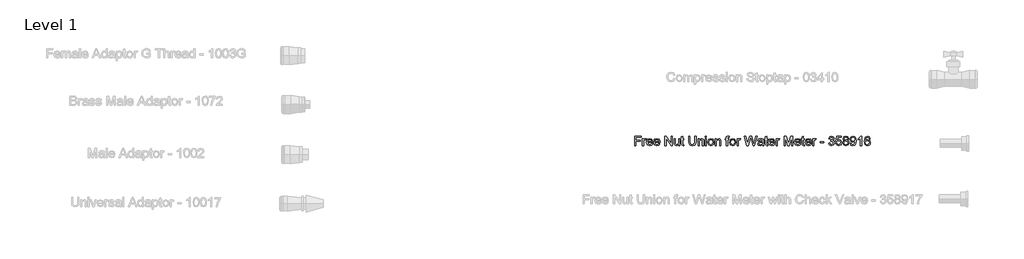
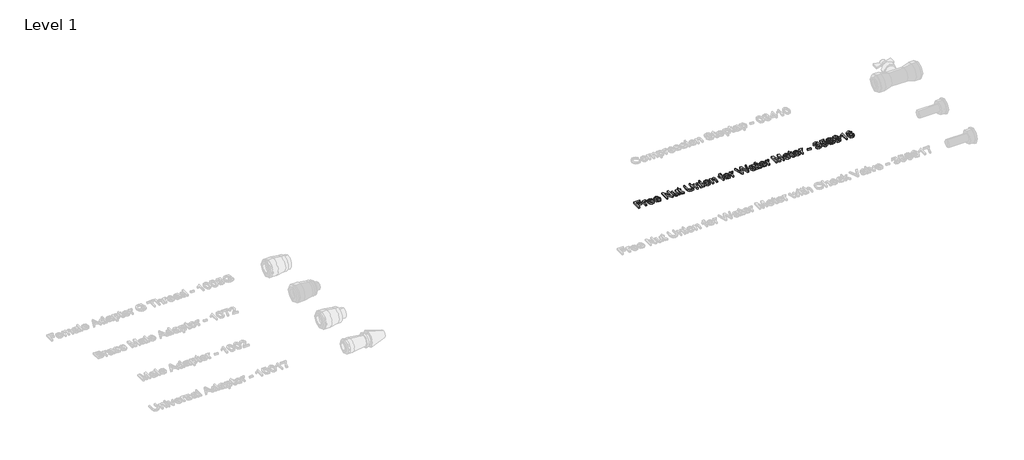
# One storey, part 12 of 13: 1 proxy.
"""IFC4 building model written with IfcOpenShell, lengths in millimetres."""

import ifcopenshell
import ifcopenshell.guid

model = None  # the IFC model being written
_history = None  # IfcOwnerHistory: only IFC2X3 demands one
_inside = {}  # id of a spatial element -> (the spatial element, [elements in it])
_under = {}  # id of a project, library or spatial element -> (it, [spatial elements below it])
_declared = {}  # id of a project -> (the project, [libraries it declares])
_typed = {}  # id of a type object -> (the type object, [elements of that type])
_made_of = {}  # id of a material, layer set ... -> (it, [elements and type objects made of it])


def new_model(schema):
    """Start an empty IFC model of exactly this schema.

    Asked for "IFC4X3", IfcOpenShell would pick the latest addendum, in which some entities
    have other attributes; the version numbers below select the first issue.
    IFC2X3 requires an IfcOwnerHistory on every rooted entity: one is made here for all.
    """
    global model, _history
    if schema == "IFC4X3":
        model = ifcopenshell.file(schema_version=(4, 3, 0, 0))
    else:
        model = ifcopenshell.file(schema=schema)
    _inside.clear()
    _under.clear()
    _declared.clear()
    _typed.clear()
    _made_of.clear()
    _history = None
    if model.schema == "IFC2X3":
        org = make("IfcOrganization", Name="unknown")
        user = make(
            "IfcPersonAndOrganization",
            ThePerson=make("IfcPerson", FamilyName="unknown"),
            TheOrganization=org,
        )
        app = make(
            "IfcApplication",
            ApplicationDeveloper=org,
            Version="unknown",
            ApplicationFullName="unknown",
            ApplicationIdentifier="unknown",
        )
        _history = make(
            "IfcOwnerHistory",
            OwningUser=user,
            OwningApplication=app,
            ChangeAction="ADDED",
            CreationDate=0,
        )
    return model


def make(cls, **values):
    """One entity of the class cls with the attributes given. An attribute that is None is left unset."""
    return model.create_entity(
        cls, **{name: value for name, value in values.items() if value is not None}
    )


def rooted(cls, **values):
    """An entity with a GlobalId (a new one), such as an element, a storey or a relation."""
    return make(cls, GlobalId=ifcopenshell.guid.new(), OwnerHistory=_history, **values)


def si_unit(unit_type, name, prefix=None):
    """IfcSIUnit, for example si_unit("LENGTHUNIT", "METRE", prefix="MILLI")."""
    return make("IfcSIUnit", UnitType=unit_type, Prefix=prefix, Name=name)


def assignment(units):
    """IfcUnitAssignment: the units of a project."""
    return None if units is None else make("IfcUnitAssignment", Units=units)


def point(xyz):
    """IfcCartesianPoint."""
    return None if xyz is None else make("IfcCartesianPoint", Coordinates=xyz)


def direction(xyz):
    """IfcDirection."""
    return None if xyz is None else make("IfcDirection", DirectionRatios=xyz)


def frame(location, z_axis=None, x_axis=None):
    """IfcAxis2Placement3D, a coordinate frame: its origin and axes. An axis left out is left unset."""
    return make(
        "IfcAxis2Placement3D",
        Location=point(location),
        Axis=direction(z_axis),
        RefDirection=direction(x_axis),
    )


def origin():
    """The frame at (0, 0, 0) with its axes left unset."""
    return frame((0.0, 0.0, 0.0))


def origin_with_axes():
    """The frame at (0, 0, 0) with the z axis (0, 0, 1) and the x axis (1, 0, 0) written out."""
    return frame((0.0, 0.0, 0.0), z_axis=(0.0, 0.0, 1.0), x_axis=(1.0, 0.0, 0.0))


def place(relative_to, where):
    """IfcLocalPlacement: puts the frame where relative to a parent placement (None: the world)."""
    return make(
        "IfcLocalPlacement", PlacementRelTo=relative_to, RelativePlacement=where
    )


def context(
    kind, dimensions, precision=None, world=None, true_north=None, identifier=None
):
    """IfcGeometricRepresentationContext, for example the 3D "Model" context."""
    return make(
        "IfcGeometricRepresentationContext",
        ContextIdentifier=identifier,
        ContextType=kind,
        CoordinateSpaceDimension=dimensions,
        Precision=precision,
        WorldCoordinateSystem=world,
        TrueNorth=true_north,
    )


def project(units=None, contexts=None):
    """IfcProject with its units and contexts."""
    return rooted(
        "IfcProject",
        Name="project",
        RepresentationContexts=contexts,
        UnitsInContext=assignment(units),
    )


def spatial(cls, under=None, at=None, **own):
    """A site, building, storey or space (cls), placed at a placement, below another one or the project."""
    s = rooted(cls, ObjectPlacement=at, **own)
    if under is not None:
        _under.setdefault(under.id(), (under, []))[1].append(s)
    return s


def polyline(points):
    """IfcPolyline through the points."""
    return make("IfcPolyline", Points=[point(p) for p in points])


def outline(outer, holes=None, kind="AREA"):
    """IfcArbitraryClosedProfileDef: a profile drawn as a closed curve; with holes, ...WithVoids."""
    if holes is None:
        return make("IfcArbitraryClosedProfileDef", ProfileType=kind, OuterCurve=outer)
    return make(
        "IfcArbitraryProfileDefWithVoids",
        ProfileType=kind,
        OuterCurve=outer,
        InnerCurves=holes,
    )


def extrude(swept, where, along, depth):
    """IfcExtrudedAreaSolid: the profile swept, set in the frame where, extruded along a direction by depth."""
    return make(
        "IfcExtrudedAreaSolid",
        SweptArea=swept,
        Position=where,
        ExtrudedDirection=direction(along),
        Depth=depth,
    )


def shape(context_of_items, identifier, shape_type, items):
    """IfcShapeRepresentation: the items that make up one representation, for example the "Body"."""
    return make(
        "IfcShapeRepresentation",
        ContextOfItems=context_of_items,
        RepresentationIdentifier=identifier,
        RepresentationType=shape_type,
        Items=items,
    )


def made_of(thing, what):
    """Note that an element or type object is made of a material, layer set ...; save() writes the relation."""
    if what is not None:
        _made_of.setdefault(what.id(), (what, []))[1].append(thing)
    return thing


def element(
    cls,
    number,
    at=None,
    inside=None,
    cuts=None,
    type_object=None,
    material=None,
    context=None,
    identifier="Body",
    shape_type=None,
    held_by="IfcProductDefinitionShape",
    body=None,
    shapes=None,
    **own,
):
    """One element of the class cls, such as IfcWall. Its Tag is "e" and its number.

    at: its placement. inside: the storey or other place that contains it. cuts: it is an
    opening in that element (IfcRelVoidsElement). A single representation is given by context,
    identifier, shape_type and body (its items); several are given by shapes. held_by: the class
    of the entity that holds the representations. save() writes the other relations.
    """
    e = rooted(cls, Tag="e%d" % number, ObjectPlacement=at, **own)
    if body is not None:
        shapes = [shape(context, identifier, shape_type, body)]
    if shapes is not None:
        e.Representation = make(held_by, Representations=shapes)
    if inside is not None:
        _inside.setdefault(inside.id(), (inside, []))[1].append(e)
    if cuts is not None:
        rooted(
            "IfcRelVoidsElement", RelatingBuildingElement=cuts, RelatedOpeningElement=e
        )
    if type_object is not None:
        _typed.setdefault(type_object.id(), (type_object, []))[1].append(e)
    return made_of(e, material)


def aggregate(whole, parts):
    """IfcRelAggregates: a whole, such as a stair, and the parts it consists of."""
    return rooted("IfcRelAggregates", RelatingObject=whole, RelatedObjects=parts)


def save(model, path):
    """Write the relations noted so far, then the file.

    IfcRelAggregates (storeys below a building ...), IfcRelContainedInSpatialStructure (elements
    in a storey), IfcRelDefinesByType, IfcRelAssociatesMaterial and IfcRelDeclares: one each for
    every whole, place, type object, material and project.
    """
    for whole, parts in _under.values():
        aggregate(whole, parts)
    for where, things in _inside.values():
        rooted(
            "IfcRelContainedInSpatialStructure",
            RelatedElements=things,
            RelatingStructure=where,
        )
    for kind, things in _typed.values():
        rooted("IfcRelDefinesByType", RelatedObjects=things, RelatingType=kind)
    for what, things in _made_of.values():
        rooted("IfcRelAssociatesMaterial", RelatedObjects=things, RelatingMaterial=what)
    for by, libraries in _declared.values():
        rooted("IfcRelDeclares", RelatingContext=by, RelatedDefinitions=libraries)
    model.write(path)


model = new_model("IFC4")

# Units and contexts
model_context = context("Model", 3, world=origin())
ifc_project = project(units=[si_unit("LENGTHUNIT", "METRE", prefix="MILLI")], contexts=[model_context])

# Site, building, storey
site = spatial("IfcSite", under=ifc_project)
building = spatial("IfcBuilding", under=site)
storey = spatial("IfcBuildingStorey", under=building, Name="Level 1", Elevation=0.0)

# Proxy
placement = place(None, origin())
element("IfcBuildingElementProxy", 1, Name="30 mm Arial", ObjectType="30 mm Arial", at=placement, inside=storey, context=model_context, shape_type="SweptSolid", body=[
    extrude(outline(polyline([(18497.361256, 4638.7804464), (18497.361256, 4668.318908), (18517.2074099, 4668.318908), (18517.2074099, 4664.6266003), (18501.0535637, 4664.6266003), (18501.0535637, 4655.8573695), (18514.8997176, 4655.8573695), (18514.8997176, 4652.1650618), (18501.0535637, 4652.1650618), (18501.0535637, 4638.7804464), (18497.361256, 4638.7804464)])), origin_with_axes(), (0.0, 0.0, 1.0), 5.0),
    extrude(outline(polyline([(18521.8227945, 4638.7804464), (18521.8227945, 4660.4727541), (18525.0535637, 4660.4727541), (18525.0535637, 4657.2636195), (18527.346833, 4660.2203503), (18529.6545253, 4660.9342926), (18533.361256, 4659.7948695), (18532.128083, 4656.4847734), (18529.5319291, 4657.2419849), (18527.4441887, 4656.5136195), (18526.1136599, 4654.4943888), (18525.5151022, 4650.1818888), (18525.5151022, 4638.7804464), (18521.8227945, 4638.7804464)])), origin_with_axes(), (0.0, 0.0, 1.0), 5.0),
    extrude(outline(polyline([(18550.8564483, 4645.2419849), (18554.4766407, 4644.7804464), (18551.0908233, 4640.0136195), (18544.784333, 4638.318908), (18537.1184676, 4641.2431868), (18534.284333, 4649.4463118), (18537.1473137, 4657.9198695), (18544.5751983, 4660.9342926), (18551.7903426, 4657.9270811), (18554.5920253, 4649.4679464), (18537.9766407, 4648.4727541), (18540.1004387, 4643.6770811), (18544.8564483, 4642.0112157), (18548.4766407, 4642.7828503), (18550.8564483, 4645.2419849)]), holes=[polyline([(18537.9766407, 4652.1650618), (18550.8997176, 4652.1650618), (18549.4213522, 4655.5112157), (18544.5607753, 4657.2419849), (18540.0139003, 4655.8609753), (18537.9766407, 4652.1650618)])]), origin_with_axes(), (0.0, 0.0, 1.0), 5.0),
    extrude(outline(polyline([(18573.471833, 4645.2419849), (18577.0920253, 4644.7804464), (18573.706208, 4640.0136195), (18567.3997176, 4638.318908), (18559.7338522, 4641.2431868), (18556.8997176, 4649.4463118), (18559.7626983, 4657.9198695), (18567.190583, 4660.9342926), (18574.4057272, 4657.9270811), (18577.2074099, 4649.4679464), (18560.5920253, 4648.4727541), (18562.7158233, 4643.6770811), (18567.471833, 4642.0112157), (18571.0920253, 4642.7828503), (18573.471833, 4645.2419849)]), holes=[polyline([(18560.5920253, 4652.1650618), (18573.5151022, 4652.1650618), (18572.0367368, 4655.5112157), (18567.1761599, 4657.2419849), (18562.6292849, 4655.8609753), (18560.5920253, 4652.1650618)])]), origin_with_axes(), (0.0, 0.0, 1.0), 5.0),
    extrude(outline(polyline([(18592.8997176, 4638.7804464), (18592.8997176, 4668.318908), (18596.8516407, 4668.318908), (18612.284333, 4644.9174657), (18612.284333, 4668.318908), (18615.9766407, 4668.318908), (18615.9766407, 4638.7804464), (18612.0247176, 4638.7804464), (18596.5920253, 4662.1891003), (18596.5920253, 4638.7804464), (18592.8997176, 4638.7804464)])), origin_with_axes(), (0.0, 0.0, 1.0), 5.0),
    extrude(outline(polyline([(18635.8227945, 4638.7804464), (18635.8227945, 4642.5088118), (18629.159333, 4638.318908), (18625.6869772, 4639.0544849), (18623.2927464, 4640.9006388), (18622.1929868, 4643.6193888), (18621.9766407, 4647.0520811), (18621.9766407, 4660.4727541), (18625.6689483, 4660.4727541), (18625.6689483, 4648.7900618), (18625.892506, 4645.0256388), (18627.3528426, 4642.8153022), (18630.1040445, 4642.0112157), (18633.1869772, 4642.8333311), (18635.2242368, 4645.0725138), (18635.8227945, 4649.1866964), (18635.8227945, 4660.4727541), (18639.5151022, 4660.4727541), (18639.5151022, 4638.7804464), (18635.8227945, 4638.7804464)])), origin_with_axes(), (0.0, 0.0, 1.0), 5.0),
    extrude(outline(polyline([(18652.4381791, 4641.8597734), (18652.8997176, 4638.6722734), (18650.1376983, 4638.318908), (18647.0439483, 4638.9318888), (18645.5006791, 4640.5400618), (18645.0535637, 4644.7299657), (18645.0535637, 4656.7804464), (18642.284333, 4656.7804464), (18642.284333, 4660.4727541), (18645.0535637, 4660.4727541), (18645.0535637, 4665.7443888), (18648.7458714, 4667.9150618), (18648.7458714, 4660.4727541), (18652.4381791, 4660.4727541), (18652.4381791, 4656.7804464), (18648.7458714, 4656.7804464), (18648.7458714, 4644.8381388), (18648.940583, 4642.9342926), (18652.4381791, 4641.8597734)])), origin_with_axes(), (0.0, 0.0, 1.0), 5.0),
    extrude(outline(polyline([(18687.5151022, 4668.318908), (18691.2074099, 4668.318908), (18691.2074099, 4651.2780426), (18690.205006, 4644.2143407), (18686.5920253, 4639.959533), (18679.7410637, 4638.318908), (18672.9946695, 4639.7467926), (18669.251881, 4643.8826099), (18668.1304868, 4651.2780426), (18668.1304868, 4668.318908), (18671.8227945, 4668.318908), (18671.8227945, 4651.4078503), (18672.5511599, 4645.7792445), (18675.0535637, 4642.9919849), (18679.3949099, 4642.0112157), (18685.6473137, 4643.9511195), (18687.5151022, 4651.4078503), (18687.5151022, 4668.318908)])), origin_with_axes(), (0.0, 0.0, 1.0), 5.0),
    extrude(outline(polyline([(18697.2074099, 4638.7804464), (18697.2074099, 4660.4727541), (18700.8997176, 4660.4727541), (18700.8997176, 4657.443908), (18707.5776022, 4660.9342926), (18711.064381, 4660.2311676), (18713.4441887, 4658.3850138), (18714.5511599, 4655.6698695), (18714.7458714, 4652.100158), (18714.7458714, 4638.7804464), (18711.0535637, 4638.7804464), (18711.0535637, 4651.6025618), (18710.628083, 4654.8693888), (18709.1244772, 4656.5965522), (18706.5896214, 4657.2419849), (18702.5836118, 4655.7924657), (18700.8997176, 4650.2900618), (18700.8997176, 4638.7804464), (18697.2074099, 4638.7804464)])), origin_with_axes(), (0.0, 0.0, 1.0), 5.0),
    extrude(outline(polyline([(18719.8227945, 4664.6266003), (18719.8227945, 4668.318908), (18723.5151022, 4668.318908), (18723.5151022, 4664.6266003), (18719.8227945, 4664.6266003)])), origin_with_axes(), (0.0, 0.0, 1.0), 5.0),
    extrude(outline(polyline([(18719.8227945, 4638.7804464), (18719.8227945, 4660.4727541), (18723.5151022, 4660.4727541), (18723.5151022, 4638.7804464), (18719.8227945, 4638.7804464)])), origin_with_axes(), (0.0, 0.0, 1.0), 5.0),
    extrude(outline(polyline([(18728.1304868, 4649.6266003), (18731.3251983, 4658.5328503), (18737.830006, 4660.9342926), (18744.8071695, 4658.0100138), (18747.5151022, 4649.9294849), (18746.3179868, 4643.3597734), (18742.831208, 4639.6422253), (18737.830006, 4638.318908), (18730.8095733, 4641.2323695), (18728.1304868, 4649.6266003)]), holes=[polyline([(18731.8227945, 4649.6338118), (18733.5319291, 4643.9114561), (18737.830006, 4642.0112157), (18742.1136599, 4643.9222734), (18743.8227945, 4649.7491964), (18742.1028426, 4655.3417445), (18737.830006, 4657.2419849), (18733.5319291, 4655.3489561), (18731.8227945, 4649.6338118)])]), origin_with_axes(), (0.0, 0.0, 1.0), 5.0),
    extrude(outline(polyline([(18751.6689483, 4638.7804464), (18751.6689483, 4660.4727541), (18755.361256, 4660.4727541), (18755.361256, 4657.443908), (18762.0391407, 4660.9342926), (18765.5259195, 4660.2311676), (18767.9057272, 4658.3850138), (18769.0126983, 4655.6698695), (18769.2074099, 4652.100158), (18769.2074099, 4638.7804464), (18765.5151022, 4638.7804464), (18765.5151022, 4651.6025618), (18765.0896214, 4654.8693888), (18763.5860157, 4656.5965522), (18761.0511599, 4657.2419849), (18757.0451503, 4655.7924657), (18755.361256, 4650.2900618), (18755.361256, 4638.7804464), (18751.6689483, 4638.7804464)])), origin_with_axes(), (0.0, 0.0, 1.0), 5.0),
    extrude(outline(polyline([(18786.7458714, 4638.7804464), (18786.7458714, 4656.7804464), (18783.5151022, 4656.7804464), (18783.5151022, 4660.4727541), (18786.7458714, 4660.4727541), (18786.7458714, 4662.6578503), (18787.1352945, 4665.7371772), (18789.0247176, 4667.9366964), (18792.7458714, 4668.7804464), (18796.1136599, 4668.3766003), (18795.5727945, 4664.9150618), (18793.4453907, 4665.0881388), (18791.1196695, 4664.475158), (18790.4381791, 4662.1891003), (18790.4381791, 4660.4727541), (18794.5920253, 4660.4727541), (18794.5920253, 4656.7804464), (18790.4381791, 4656.7804464), (18790.4381791, 4638.7804464), (18786.7458714, 4638.7804464)])), origin_with_axes(), (0.0, 0.0, 1.0), 5.0),
    extrude(outline(polyline([(18796.8997176, 4649.6266003), (18800.0944291, 4658.5328503), (18806.5992368, 4660.9342926), (18813.5764003, 4658.0100138), (18816.284333, 4649.9294849), (18815.0872176, 4643.3597734), (18811.6004387, 4639.6422253), (18806.5992368, 4638.318908), (18799.5788041, 4641.2323695), (18796.8997176, 4649.6266003)]), holes=[polyline([(18800.5920253, 4649.6338118), (18802.3011599, 4643.9114561), (18806.5992368, 4642.0112157), (18810.8828907, 4643.9222734), (18812.5920253, 4649.7491964), (18810.8720733, 4655.3417445), (18806.5992368, 4657.2419849), (18802.3011599, 4655.3489561), (18800.5920253, 4649.6338118)])]), origin_with_axes(), (0.0, 0.0, 1.0), 5.0),
    extrude(outline(polyline([(18820.4381791, 4638.7804464), (18820.4381791, 4660.4727541), (18823.6689483, 4660.4727541), (18823.6689483, 4657.2636195), (18825.9622176, 4660.2203503), (18828.2699099, 4660.9342926), (18831.9766407, 4659.7948695), (18830.7434676, 4656.4847734), (18828.1473137, 4657.2419849), (18826.0595733, 4656.5136195), (18824.7290445, 4654.4943888), (18824.1304868, 4650.1818888), (18824.1304868, 4638.7804464), (18820.4381791, 4638.7804464)])), origin_with_axes(), (0.0, 0.0, 1.0), 5.0),
    extrude(outline(polyline([(18851.5703907, 4638.7804464), (18843.5151022, 4668.318908), (18847.3227945, 4668.318908), (18851.9958714, 4648.9054464), (18853.4381791, 4642.912658), (18854.9814483, 4648.2131388), (18860.8372176, 4668.318908), (18866.3251983, 4668.318908), (18870.580006, 4653.7443888), (18873.7458714, 4642.912658), (18875.1449099, 4648.7323695), (18879.861256, 4668.318908), (18883.6689483, 4668.318908), (18875.6064483, 4638.7804464), (18871.6617368, 4638.7804464), (18864.580006, 4661.568908), (18863.5920253, 4664.7491964), (18862.4814483, 4660.9198695), (18856.0271214, 4638.7804464), (18851.5703907, 4638.7804464)])), origin_with_axes(), (0.0, 0.0, 1.0), 5.0),
    extrude(outline(polyline([(18900.7458714, 4641.5496772), (18897.1653426, 4639.0472734), (18893.2098137, 4638.318908), (18887.8480349, 4640.0713118), (18885.9766407, 4644.5496772), (18886.6833714, 4647.4703503), (18888.5403426, 4649.5905426), (18891.1256791, 4650.8020811), (18894.3203907, 4651.3573695), (18900.7242368, 4652.6266003), (18899.7290445, 4656.1746772), (18895.6473137, 4657.2419849), (18891.9117368, 4656.5316484), (18890.1304868, 4654.0112157), (18886.4381791, 4654.4727541), (18888.0355349, 4658.0785234), (18891.251881, 4660.1915041), (18896.1232753, 4660.9342926), (18900.5980349, 4660.2780426), (18903.1256791, 4658.6302061), (18904.2578907, 4656.1241964), (18904.4381791, 4652.8934272), (18904.4381791, 4648.2996772), (18904.6256791, 4641.8850138), (18905.361256, 4638.7804464), (18901.6689483, 4638.7804464), (18900.7458714, 4641.5496772)]), holes=[polyline([(18900.7350541, 4648.4114561), (18894.7891407, 4647.8020811), (18891.612458, 4647.2035234), (18890.173756, 4646.2299657), (18890.768708, 4642.8116964), (18893.9958714, 4642.0112157), (18897.7314483, 4642.8946291), (18900.1401022, 4645.0328503), (18900.7350541, 4648.4114561)])]), origin_with_axes(), (0.0, 0.0, 1.0), 5.0),
    extrude(outline(polyline([(18917.361256, 4641.8597734), (18917.8227945, 4638.6722734), (18915.0607753, 4638.318908), (18911.9670253, 4638.9318888), (18910.423756, 4640.5400618), (18909.9766407, 4644.7299657), (18909.9766407, 4656.7804464), (18907.2074099, 4656.7804464), (18907.2074099, 4660.4727541), (18909.9766407, 4660.4727541), (18909.9766407, 4665.7443888), (18913.6689483, 4667.9150618), (18913.6689483, 4660.4727541), (18917.361256, 4660.4727541), (18917.361256, 4656.7804464), (18913.6689483, 4656.7804464), (18913.6689483, 4644.8381388), (18913.8636599, 4642.9342926), (18917.361256, 4641.8597734)])), origin_with_axes(), (0.0, 0.0, 1.0), 5.0),
    extrude(outline(polyline([(18936.2410637, 4645.2419849), (18939.861256, 4644.7804464), (18936.4754387, 4640.0136195), (18930.1689483, 4638.318908), (18922.503083, 4641.2431868), (18919.6689483, 4649.4463118), (18922.5319291, 4657.9198695), (18929.9598137, 4660.9342926), (18937.174958, 4657.9270811), (18939.9766407, 4649.4679464), (18923.361256, 4648.4727541), (18925.4850541, 4643.6770811), (18930.2410637, 4642.0112157), (18933.861256, 4642.7828503), (18936.2410637, 4645.2419849)]), holes=[polyline([(18923.361256, 4652.1650618), (18936.284333, 4652.1650618), (18934.8059676, 4655.5112157), (18929.9453907, 4657.2419849), (18925.3985157, 4655.8609753), (18923.361256, 4652.1650618)])]), origin_with_axes(), (0.0, 0.0, 1.0), 5.0),
    extrude(outline(polyline([(18943.6689483, 4638.7804464), (18943.6689483, 4660.4727541), (18946.8997176, 4660.4727541), (18946.8997176, 4657.2636195), (18949.1929868, 4660.2203503), (18951.5006791, 4660.9342926), (18955.2074099, 4659.7948695), (18953.9742368, 4656.4847734), (18951.378083, 4657.2419849), (18949.2903426, 4656.5136195), (18947.9598137, 4654.4943888), (18947.361256, 4650.1818888), (18947.361256, 4638.7804464), (18943.6689483, 4638.7804464)])), origin_with_axes(), (0.0, 0.0, 1.0), 5.0),
    extrude(outline(polyline([(18969.5151022, 4638.7804464), (18969.5151022, 4668.318908), (18975.8684676, 4668.318908), (18981.9117368, 4647.4991964), (18983.1304868, 4643.1506388), (18984.4501983, 4647.8597734), (18990.392506, 4668.318908), (18996.7458714, 4668.318908), (18996.7458714, 4638.7804464), (18993.0535637, 4638.7804464), (18993.0535637, 4664.6266003), (18985.6328907, 4638.7804464), (18980.628083, 4638.7804464), (18973.2074099, 4664.6266003), (18973.2074099, 4638.7804464), (18969.5151022, 4638.7804464)])), origin_with_axes(), (0.0, 0.0, 1.0), 5.0),
    extrude(outline(polyline([(19017.9333714, 4645.2419849), (19021.5535637, 4644.7804464), (19018.1677464, 4640.0136195), (19011.861256, 4638.318908), (19004.1953907, 4641.2431868), (19001.361256, 4649.4463118), (19004.2242368, 4657.9198695), (19011.6521214, 4660.9342926), (19018.8672657, 4657.9270811), (19021.6689483, 4649.4679464), (19005.0535637, 4648.4727541), (19007.1773618, 4643.6770811), (19011.9333714, 4642.0112157), (19015.5535637, 4642.7828503), (19017.9333714, 4645.2419849)]), holes=[polyline([(19005.0535637, 4652.1650618), (19017.9766407, 4652.1650618), (19016.4982753, 4655.5112157), (19011.6376983, 4657.2419849), (19007.0908233, 4655.8609753), (19005.0535637, 4652.1650618)])]), origin_with_axes(), (0.0, 0.0, 1.0), 5.0),
    extrude(outline(polyline([(19033.2074099, 4641.8597734), (19033.6689483, 4638.6722734), (19030.9069291, 4638.318908), (19027.8131791, 4638.9318888), (19026.2699099, 4640.5400618), (19025.8227945, 4644.7299657), (19025.8227945, 4656.7804464), (19023.0535637, 4656.7804464), (19023.0535637, 4660.4727541), (19025.8227945, 4660.4727541), (19025.8227945, 4665.7443888), (19029.5151022, 4667.9150618), (19029.5151022, 4660.4727541), (19033.2074099, 4660.4727541), (19033.2074099, 4656.7804464), (19029.5151022, 4656.7804464), (19029.5151022, 4644.8381388), (19029.7098137, 4642.9342926), (19033.2074099, 4641.8597734)])), origin_with_axes(), (0.0, 0.0, 1.0), 5.0),
    extrude(outline(polyline([(19052.0872176, 4645.2419849), (19055.7074099, 4644.7804464), (19052.3215926, 4640.0136195), (19046.0151022, 4638.318908), (19038.3492368, 4641.2431868), (19035.5151022, 4649.4463118), (19038.378083, 4657.9198695), (19045.8059676, 4660.9342926), (19053.0211118, 4657.9270811), (19055.8227945, 4649.4679464), (19039.2074099, 4648.4727541), (19041.331208, 4643.6770811), (19046.0872176, 4642.0112157), (19049.7074099, 4642.7828503), (19052.0872176, 4645.2419849)]), holes=[polyline([(19039.2074099, 4652.1650618), (19052.1304868, 4652.1650618), (19050.6521214, 4655.5112157), (19045.7915445, 4657.2419849), (19041.2446695, 4655.8609753), (19039.2074099, 4652.1650618)])]), origin_with_axes(), (0.0, 0.0, 1.0), 5.0),
    extrude(outline(polyline([(19059.5151022, 4638.7804464), (19059.5151022, 4660.4727541), (19062.7458714, 4660.4727541), (19062.7458714, 4657.2636195), (19065.0391407, 4660.2203503), (19067.346833, 4660.9342926), (19071.0535637, 4659.7948695), (19069.8203907, 4656.4847734), (19067.2242368, 4657.2419849), (19065.1364964, 4656.5136195), (19063.8059676, 4654.4943888), (19063.2074099, 4650.1818888), (19063.2074099, 4638.7804464), (19059.5151022, 4638.7804464)])), origin_with_axes(), (0.0, 0.0, 1.0), 5.0),
    extrude(outline(polyline([(19083.0535637, 4647.5496772), (19083.0535637, 4651.2419849), (19094.5920253, 4651.2419849), (19094.5920253, 4647.5496772), (19083.0535637, 4647.5496772)])), origin_with_axes(), (0.0, 0.0, 1.0), 5.0),
    extrude(outline(polyline([(19109.361256, 4646.6266003), (19113.0535637, 4647.0881388), (19115.0908233, 4643.2011195), (19118.9021214, 4642.0112157), (19123.3876983, 4643.6482349), (19125.0535637, 4647.7011195), (19123.4021214, 4651.5196291), (19119.205006, 4653.0304464), (19116.6160637, 4652.6266003), (19117.0271214, 4656.318908), (19121.8083714, 4657.3357349), (19123.6689483, 4660.5953503), (19122.3203907, 4663.4835714), (19118.8444291, 4664.6266003), (19115.3251983, 4663.4727541), (19113.5151022, 4660.0112157), (19109.8227945, 4660.4727541), (19112.8444291, 4666.2636195), (19118.7146214, 4668.318908), (19123.1677464, 4667.3056868), (19126.283131, 4664.5364561), (19127.361256, 4660.8116964), (19126.3372176, 4657.4078503), (19123.3083714, 4654.9631388), (19127.3324099, 4652.4391003), (19128.7458714, 4647.6362157), (19125.9189483, 4641.0304464), (19118.7723137, 4638.318908), (19112.2963522, 4640.6338118), (19109.361256, 4646.6266003)])), origin_with_axes(), (0.0, 0.0, 1.0), 5.0),
    extrude(outline(polyline([(19131.9766407, 4646.6266003), (19135.6689483, 4647.0881388), (19137.5295253, 4643.2840522), (19141.3876983, 4642.0112157), (19146.017506, 4643.7816484), (19147.6689483, 4648.4799657), (19146.1220733, 4652.8645811), (19141.4453907, 4654.4727541), (19138.2038041, 4653.8309272), (19136.1304868, 4652.1650618), (19132.4381791, 4652.6266003), (19135.6689483, 4667.8573695), (19149.9766407, 4667.8573695), (19149.9766407, 4664.1650618), (19138.6545253, 4664.1650618), (19137.0751983, 4656.0304464), (19142.4766407, 4658.1650618), (19148.7903426, 4655.5184272), (19151.361256, 4648.7107349), (19149.0463522, 4641.8597734), (19141.3732753, 4638.318908), (19134.8576503, 4640.5941484), (19131.9766407, 4646.6266003)])), origin_with_axes(), (0.0, 0.0, 1.0), 5.0),
    extrude(outline(polyline([(19159.971833, 4655.0496772), (19156.6076503, 4657.3429464), (19155.5151022, 4660.912658), (19157.8949099, 4666.1842926), (19164.2338522, 4668.318908), (19170.6304868, 4666.1338118), (19173.0535637, 4660.8116964), (19171.9754387, 4657.3321291), (19168.705006, 4655.0496772), (19172.6316887, 4652.1542445), (19173.9766407, 4647.3766003), (19171.3083714, 4640.9294849), (19164.284333, 4638.318908), (19157.2602945, 4640.9403022), (19154.5920253, 4647.4775618), (19155.9910637, 4652.3669849), (19159.971833, 4655.0496772)]), holes=[polyline([(19159.2074099, 4660.8044849), (19160.5163041, 4657.9054464), (19164.3276022, 4656.7804464), (19168.0631791, 4657.8982349), (19169.361256, 4660.6386195), (19168.0199099, 4663.4763599), (19164.284333, 4664.6266003), (19160.5379387, 4663.5016003), (19159.2074099, 4660.8044849)]), polyline([(19158.284333, 4647.6073695), (19158.9009195, 4644.8273214), (19161.0824099, 4642.7467926), (19164.3131791, 4642.0112157), (19168.7122176, 4643.5580907), (19170.284333, 4647.4919849), (19168.6617368, 4651.5016003), (19164.190583, 4653.0881388), (19159.845631, 4651.5232349), (19158.284333, 4647.6073695)])]), origin_with_axes(), (0.0, 0.0, 1.0), 5.0),
    extrude(outline(polyline([(19177.6689483, 4646.1650618), (19181.361256, 4646.6266003), (19183.0199099, 4643.1037638), (19186.1641407, 4642.0112157), (19189.1533233, 4642.7143407), (19191.1797657, 4644.5929464), (19192.3876983, 4647.8020811), (19192.9213522, 4652.0857349), (19189.9465926, 4650.0088118), (19185.8973137, 4648.9342926), (19179.7278426, 4651.5592926), (19177.2074099, 4658.475158), (19179.8504387, 4665.6145811), (19186.4742368, 4668.318908), (19191.7350541, 4666.7756388), (19195.3552464, 4662.3766003), (19196.5920253, 4654.1121772), (19195.3588522, 4645.1446291), (19191.6917849, 4640.0641003), (19185.9910637, 4638.318908), (19180.315583, 4640.3778022), (19177.6689483, 4646.1650618)]), holes=[polyline([(19192.8997176, 4658.5616964), (19191.3059676, 4662.9895811), (19187.0727945, 4664.6266003), (19182.6304868, 4662.8633791), (19180.8997176, 4658.2948695), (19182.5367368, 4654.2023214), (19186.971833, 4652.6266003), (19191.2302464, 4654.2023214), (19192.8997176, 4658.5616964)])]), origin_with_axes(), (0.0, 0.0, 1.0), 5.0),
    extrude(outline(polyline([(19213.6689483, 4638.7804464), (19209.9766407, 4638.7804464), (19209.9766407, 4661.7996772), (19206.4790445, 4659.3080907), (19202.5920253, 4657.443908), (19202.5920253, 4660.9342926), (19208.0042849, 4664.3886195), (19211.2891407, 4668.318908), (19213.6689483, 4668.318908), (19213.6689483, 4638.7804464)])), origin_with_axes(), (0.0, 0.0, 1.0), 5.0),
    extrude(outline(polyline([(19241.361256, 4660.4727541), (19237.6689483, 4660.0112157), (19236.2699099, 4663.0905426), (19232.5703907, 4664.6266003), (19229.2386599, 4663.7323695), (19226.7182272, 4660.3753984), (19225.6689483, 4653.7948695), (19228.924958, 4656.740783), (19232.9598137, 4657.7035234), (19239.2338522, 4655.0713118), (19241.8227945, 4648.2708311), (19240.6040445, 4643.1758791), (19237.2506791, 4639.5701099), (19232.4117368, 4638.318908), (19224.8864964, 4641.6362157), (19221.9766407, 4652.568908), (19225.2074099, 4664.9511195), (19232.8011599, 4668.318908), (19238.6352945, 4666.2347734), (19241.361256, 4660.4727541)]), holes=[polyline([(19225.6689483, 4648.3285234), (19226.5235157, 4645.1302061), (19228.7951503, 4642.8080907), (19232.1232753, 4642.0112157), (19236.4754387, 4643.662658), (19238.1304868, 4648.1482349), (19236.4970733, 4652.4427061), (19231.971833, 4654.0112157), (19227.5042849, 4652.4427061), (19225.6689483, 4648.3285234)])]), origin_with_axes(), (0.0, 0.0, 1.0), 5.0),
])

save(model, "model.ifc")
